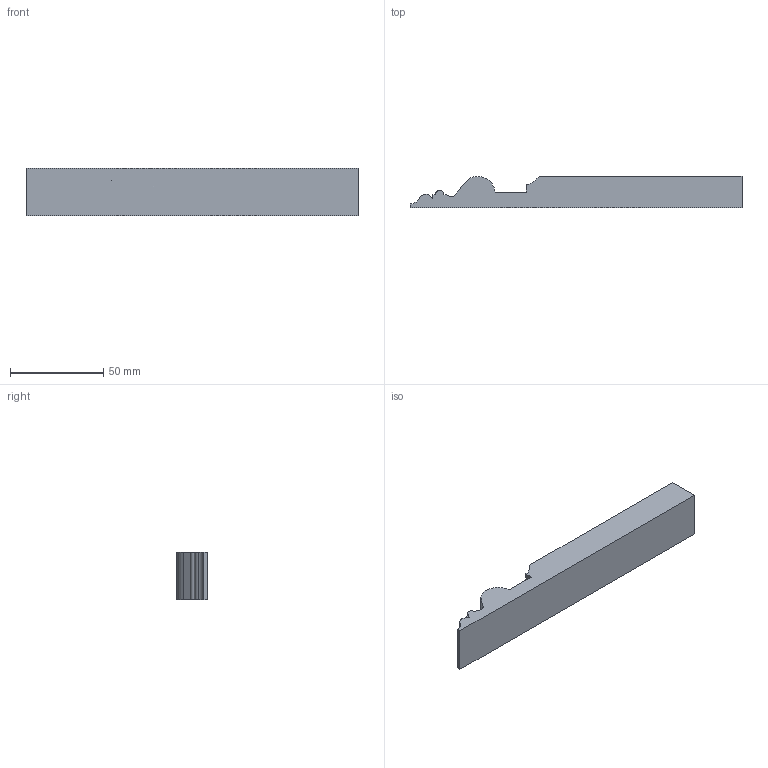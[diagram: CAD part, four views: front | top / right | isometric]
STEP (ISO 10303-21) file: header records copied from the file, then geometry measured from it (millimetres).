
FILE_DESCRIPTION (( 'STEP AP203' ), '1' );
FILE_NAME ('AB219FJ.STEP', '2023-08-25T14:16:59', ( '' ), ( '' ), 'SwSTEP 2.0', 'SolidWorks 2020', '' );
FILE_SCHEMA (( 'CONFIG_CONTROL_DESIGN' ));
Length unit declared in the file: inch
Products named in the file (1): AB219FJ
Bounding box: 177.8 x 16.66 x 25.4 mm (x, y, z)
Volume: 63185.8 mm3; surface area: 15043.1 mm2
Topology: 1 solids, 1 shells, 22 faces, 60 edges, 40 vertices
Faces by surface type: plane 14, cylinder 8
Entity records: 779 total; most frequent: CARTESIAN_POINT 123, DIRECTION 122, ORIENTED_EDGE 120, EDGE_CURVE 60, VECTOR 44, LINE 44, VERTEX_POINT 40, AXIS2_PLACEMENT_3D 39
